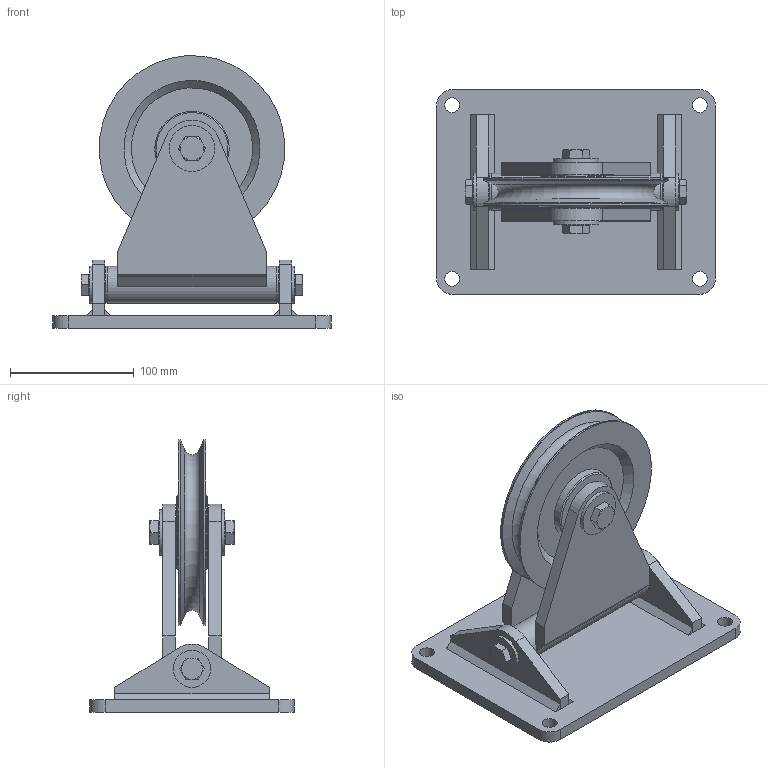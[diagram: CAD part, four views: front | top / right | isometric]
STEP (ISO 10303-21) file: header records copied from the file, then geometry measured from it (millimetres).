
FILE_DESCRIPTION(/* description */ ('Seilrolle ø150 einfach Schwenkbar SE 150 K'),/* implementation_level */ '2;1');
FILE_NAME(/* name */ 'Z:\Workspace\03 Seilrollen\1.409 K Seilrollen einfach schwenkbar Kugellager\1.409.02 K Seilrolle ø150 einfach schwenkbar SE 150 K\1.409.02 K Seilrolle ø150 einfach Schwenkbar SE 150 K.stp',/* time_stamp */ '2021-10-11T11:05:25+02:00',/* author */ ('cad-user'),/* organization */ (''),/* preprocessor_version */ 'ST-DEVELOPER v18',/* originating_system */ 'Autodesk Inventor 2020',/* authorisation */ '');
FILE_SCHEMA (('AUTOMOTIVE_DESIGN { 1 0 10303 214 3 1 1 }'));
Length unit declared in the file: millimetre
Products named in the file (25): 1.409.02 K Seilrolle ø150 einfach Schwenkbar SE 150
 K; 1.409.02.01 Konsole Schweißteil; 1.409.02.01 Konsole Schweißteil_1; 1.409.02.02 Platte 1; 1.409.02.03 Platte 2; 1.409.02.06  Schwenkkonsole Schweißteil; 1.409.02.06  Schwenkkonsole Schweißteil_1; 1.409.02.05 Rohr; 1.409.02.04 Platte 3; 1.409.02.04 Platte 3_1; 1.409.02.08 Achse 2; BB2022DU; 1.402.05 Seilrolle ø150 Kugellager komplett; 1.402.05 Seilrolle ø150 Kugellager; DIN625 - 6004-2RS - P63; din625_-_6004-2rs_-_p63_0_05; din625_-_6004-2rs_-_p63_0_04; din625_-_6004-2rs_-_p63_0_03; din625_-_6004-2rs_-_p63_0_02; din625_-_6004-2rs_-_p63_0_01; DIN 9021 - 10,5; DIN 933 - M10  x 25; 1.405.05.02 Achse; DIN 9021 - 13; DIN 933 - M12  x 25
Assembly tree (31 placements, depth 4):
  1.409.02 K Seilrolle ø150 einfach Schwenkbar SE 150
 K
    1.409.02.01 Konsole Schweißteil
      1.409.02.01 Konsole Schweißteil_1
      1.409.02.02 Platte 1
      1.409.02.03 Platte 2  x2
    1.409.02.06  Schwenkkonsole Schweißteil
      1.409.02.06  Schwenkkonsole Schweißteil_1
      1.409.02.05 Rohr
      1.409.02.04 Platte 3
      1.409.02.04 Platte 3_1
    1.409.02.08 Achse 2
    BB2022DU  x2
    1.402.05 Seilrolle ø150 Kugellager komplett
      1.402.05 Seilrolle ø150 Kugellager
      DIN625 - 6004-2RS - P63  x2
        din625_-_6004-2rs_-_p63_0_05
        din625_-_6004-2rs_-_p63_0_04
        din625_-_6004-2rs_-_p63_0_03
        din625_-_6004-2rs_-_p63_0_02
        din625_-_6004-2rs_-_p63_0_01
    DIN 9021 - 10,5  x2
    DIN 933 - M10  x 25  x2
    1.405.05.02 Achse
    DIN 9021 - 13  x2
    DIN 933 - M12  x 25  x2
Bounding box: 225 x 165 x 219.82 mm (x, y, z)
Volume: 1018043.6 mm3; surface area: 305133.4 mm2
Topology: 35 solids, 35 shells, 349 faces, 851 edges, 592 vertices
Faces by surface type: plane 166, cylinder 88, cone 44, torus 35, sphere 16
Full cylindrical faces by diameter (mm): 8.376 x2, 9.188 x2, 10 x2, 10.106 x1, 10.5 x2, 11.053 x2, 12 x6, 13 x4, 15.4 x2, 17.2 x2, 20 x6, 22 x1, 23 x2, 24.4 x8, 26.6 x4, 30 x3, 35.4 x4, 36 x1, 37 x2, 39 x8, 42 x4, 60 x2, 150 x2
Entity records: 8320 total; most frequent: CARTESIAN_POINT 1834, DIRECTION 1295, ORIENTED_EDGE 1066, AXIS2_PLACEMENT_3D 537, EDGE_CURVE 533, VERTEX_POINT 384, EDGE_LOOP 295, CIRCLE 252
